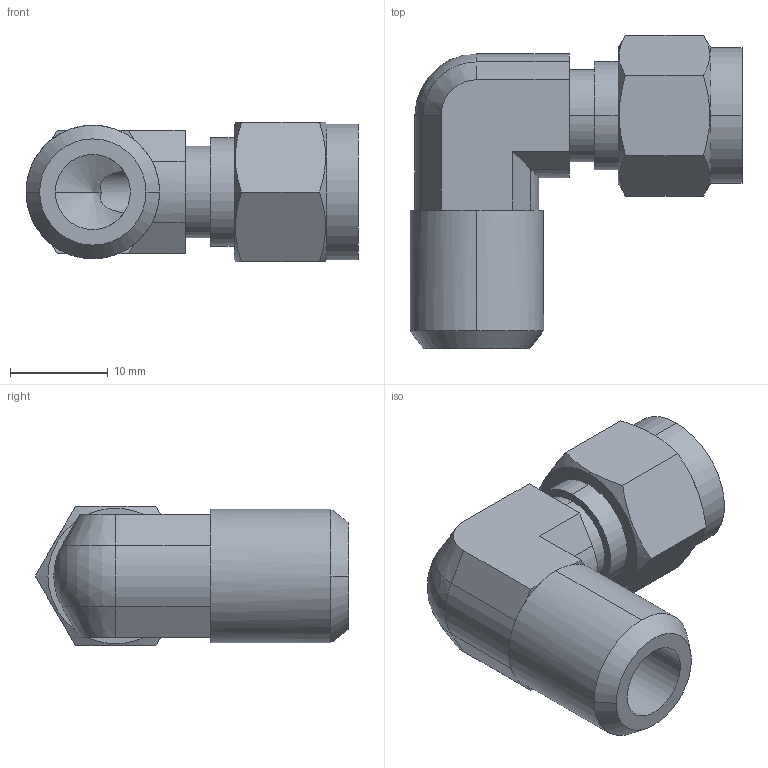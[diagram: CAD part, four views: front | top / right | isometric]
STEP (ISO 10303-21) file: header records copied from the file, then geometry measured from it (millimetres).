
FILE_DESCRIPTION (( 'STEP AP203' ), '1' );
FILE_NAME ('DLB 04-04 SS.STEP', '2009-09-08T06:39:40', ( ' ' ), ( '' ), 'SwSTEP 2.0', 'SolidWorks 2008', '' );
FILE_SCHEMA (( 'CONFIG_CONTROL_DESIGN' ));
Length unit declared in the file: millimetre
Products named in the file (1): DLB 04-04 SS
Bounding box: 34.05 x 32.15 x 14.29 mm (x, y, z)
Volume: 5301.6 mm3; surface area: 3614.2 mm2
Topology: 1 solids, 1 shells, 59 faces, 147 edges, 91 vertices
Faces by surface type: plane 30, cylinder 18, cone 10, sphere 1
Entity records: 1964 total; most frequent: CARTESIAN_POINT 504, DIRECTION 290, ORIENTED_EDGE 286, EDGE_CURVE 143, AXIS2_PLACEMENT_3D 110, VERTEX_POINT 90, VECTOR 70, LINE 70
